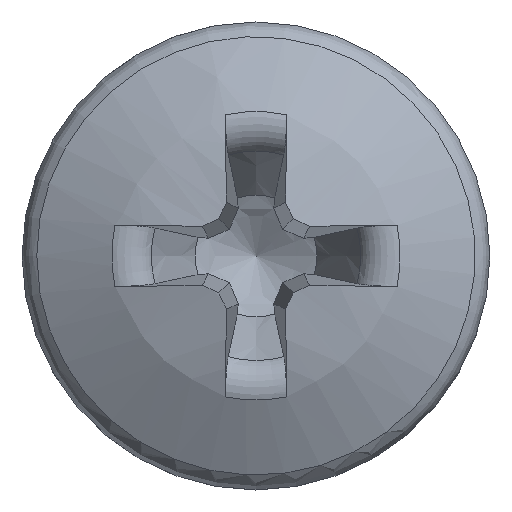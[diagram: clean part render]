
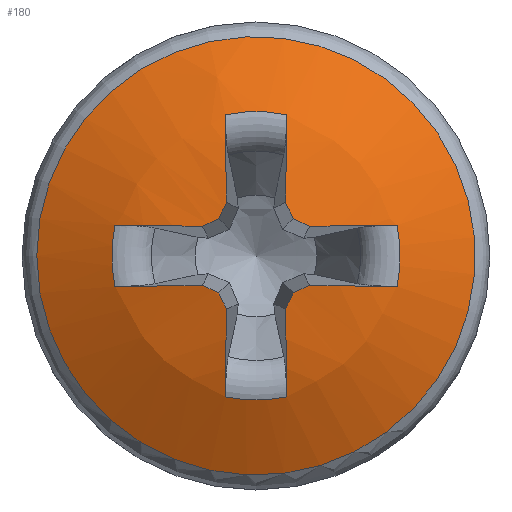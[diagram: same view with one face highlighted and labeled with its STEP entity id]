
A CAD part, top view. The second image highlights one B-rep face of the part: STEP entity #180.
In plain terms, the highlighted spherical face has radius 7.798 mm.
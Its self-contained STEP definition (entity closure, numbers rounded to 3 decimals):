
#143=SPHERICAL_SURFACE('',#1038,7.798);
#154=FACE_BOUND('',#297,.T.);
#155=FACE_BOUND('',#298,.T.);
#180=ADVANCED_FACE('',(#154,#155),#143,.T.);
#297=EDGE_LOOP('',(#427));
#298=EDGE_LOOP('',(#428,#429,#430,#431,#432,#433,#434,#435,#436,#437,#438,
#439,#440,#441,#442,#443,#444,#445,#446,#447));
#366=CIRCLE('',#1017,4.124);
#367=CIRCLE('',#1018,7.796);
#368=CIRCLE('',#1019,2.715);
#369=CIRCLE('',#1020,7.796);
#370=CIRCLE('',#1021,7.796);
#371=CIRCLE('',#1022,7.796);
#372=CIRCLE('',#1023,7.796);
#373=CIRCLE('',#1024,2.715);
#374=CIRCLE('',#1025,7.796);
#375=CIRCLE('',#1026,7.796);
#376=CIRCLE('',#1027,7.796);
#377=CIRCLE('',#1028,7.796);
#378=CIRCLE('',#1029,2.715);
#379=CIRCLE('',#1030,7.796);
#380=CIRCLE('',#1031,7.796);
#381=CIRCLE('',#1032,7.796);
#382=CIRCLE('',#1033,7.796);
#383=CIRCLE('',#1034,2.715);
#384=CIRCLE('',#1035,7.796);
#385=CIRCLE('',#1036,7.796);
#386=CIRCLE('',#1037,7.796);
#427=ORIENTED_EDGE('',*,*,#813,.T.);
#428=ORIENTED_EDGE('',*,*,#814,.F.);
#429=ORIENTED_EDGE('',*,*,#815,.T.);
#430=ORIENTED_EDGE('',*,*,#816,.F.);
#431=ORIENTED_EDGE('',*,*,#817,.F.);
#432=ORIENTED_EDGE('',*,*,#818,.F.);
#433=ORIENTED_EDGE('',*,*,#819,.F.);
#434=ORIENTED_EDGE('',*,*,#820,.T.);
#435=ORIENTED_EDGE('',*,*,#821,.F.);
#436=ORIENTED_EDGE('',*,*,#822,.F.);
#437=ORIENTED_EDGE('',*,*,#823,.F.);
#438=ORIENTED_EDGE('',*,*,#824,.F.);
#439=ORIENTED_EDGE('',*,*,#825,.T.);
#440=ORIENTED_EDGE('',*,*,#826,.F.);
#441=ORIENTED_EDGE('',*,*,#827,.F.);
#442=ORIENTED_EDGE('',*,*,#828,.F.);
#443=ORIENTED_EDGE('',*,*,#829,.F.);
#444=ORIENTED_EDGE('',*,*,#830,.T.);
#445=ORIENTED_EDGE('',*,*,#831,.F.);
#446=ORIENTED_EDGE('',*,*,#832,.F.);
#447=ORIENTED_EDGE('',*,*,#833,.F.);
#715=VERTEX_POINT('',#2089);
#716=VERTEX_POINT('',#2091);
#717=VERTEX_POINT('',#2092);
#718=VERTEX_POINT('',#2094);
#719=VERTEX_POINT('',#2096);
#720=VERTEX_POINT('',#2098);
#721=VERTEX_POINT('',#2100);
#722=VERTEX_POINT('',#2102);
#723=VERTEX_POINT('',#2104);
#724=VERTEX_POINT('',#2106);
#725=VERTEX_POINT('',#2108);
#726=VERTEX_POINT('',#2110);
#727=VERTEX_POINT('',#2112);
#728=VERTEX_POINT('',#2114);
#729=VERTEX_POINT('',#2116);
#730=VERTEX_POINT('',#2118);
#731=VERTEX_POINT('',#2120);
#732=VERTEX_POINT('',#2122);
#733=VERTEX_POINT('',#2124);
#734=VERTEX_POINT('',#2126);
#735=VERTEX_POINT('',#2128);
#813=EDGE_CURVE('',#715,#715,#366,.T.);
#814=EDGE_CURVE('',#716,#717,#367,.T.);
#815=EDGE_CURVE('',#716,#718,#368,.T.);
#816=EDGE_CURVE('',#719,#718,#369,.T.);
#817=EDGE_CURVE('',#720,#719,#370,.T.);
#818=EDGE_CURVE('',#721,#720,#371,.T.);
#819=EDGE_CURVE('',#722,#721,#372,.T.);
#820=EDGE_CURVE('',#722,#723,#373,.T.);
#821=EDGE_CURVE('',#724,#723,#374,.T.);
#822=EDGE_CURVE('',#725,#724,#375,.T.);
#823=EDGE_CURVE('',#726,#725,#376,.T.);
#824=EDGE_CURVE('',#727,#726,#377,.T.);
#825=EDGE_CURVE('',#727,#728,#378,.T.);
#826=EDGE_CURVE('',#729,#728,#379,.T.);
#827=EDGE_CURVE('',#730,#729,#380,.T.);
#828=EDGE_CURVE('',#731,#730,#381,.T.);
#829=EDGE_CURVE('',#732,#731,#382,.T.);
#830=EDGE_CURVE('',#732,#733,#383,.T.);
#831=EDGE_CURVE('',#734,#733,#384,.T.);
#832=EDGE_CURVE('',#735,#734,#385,.T.);
#833=EDGE_CURVE('',#717,#735,#386,.T.);
#1017=AXIS2_PLACEMENT_3D('',#2088,#1102,#1103);
#1018=AXIS2_PLACEMENT_3D('',#2090,#1104,#1105);
#1019=AXIS2_PLACEMENT_3D('',#2093,#1106,#1107);
#1020=AXIS2_PLACEMENT_3D('',#2095,#1108,#1109);
#1021=AXIS2_PLACEMENT_3D('',#2097,#1110,#1111);
#1022=AXIS2_PLACEMENT_3D('',#2099,#1112,#1113);
#1023=AXIS2_PLACEMENT_3D('',#2101,#1114,#1115);
#1024=AXIS2_PLACEMENT_3D('',#2103,#1116,#1117);
#1025=AXIS2_PLACEMENT_3D('',#2105,#1118,#1119);
#1026=AXIS2_PLACEMENT_3D('',#2107,#1120,#1121);
#1027=AXIS2_PLACEMENT_3D('',#2109,#1122,#1123);
#1028=AXIS2_PLACEMENT_3D('',#2111,#1124,#1125);
#1029=AXIS2_PLACEMENT_3D('',#2113,#1126,#1127);
#1030=AXIS2_PLACEMENT_3D('',#2115,#1128,#1129);
#1031=AXIS2_PLACEMENT_3D('',#2117,#1130,#1131);
#1032=AXIS2_PLACEMENT_3D('',#2119,#1132,#1133);
#1033=AXIS2_PLACEMENT_3D('',#2121,#1134,#1135);
#1034=AXIS2_PLACEMENT_3D('',#2123,#1136,#1137);
#1035=AXIS2_PLACEMENT_3D('',#2125,#1138,#1139);
#1036=AXIS2_PLACEMENT_3D('',#2127,#1140,#1141);
#1037=AXIS2_PLACEMENT_3D('',#2129,#1142,#1143);
#1038=AXIS2_PLACEMENT_3D('',#2130,#1144,#1145);
#1102=DIRECTION('',(0.,0.,1.));
#1103=DIRECTION('',(-1.,0.,0.));
#1104=DIRECTION('',(-0.035,0.996,0.087));
#1105=DIRECTION('',(0.,-0.087,0.996));
#1106=DIRECTION('',(0.,0.,-1.));
#1107=DIRECTION('',(-1.,0.,0.));
#1108=DIRECTION('',(-0.035,-0.996,0.087));
#1109=DIRECTION('',(0.,-0.087,-0.996));
#1110=DIRECTION('',(0.42,-0.902,0.1));
#1111=DIRECTION('',(0.906,0.423,0.));
#1112=DIRECTION('',(0.902,-0.42,0.1));
#1113=DIRECTION('',(0.423,0.906,0.));
#1114=DIRECTION('',(0.996,0.035,0.087));
#1115=DIRECTION('',(0.087,0.,-0.996));
#1116=DIRECTION('',(0.,0.,-1.));
#1117=DIRECTION('',(-1.,0.,0.));
#1118=DIRECTION('',(-0.996,0.035,0.087));
#1119=DIRECTION('',(0.087,0.,0.996));
#1120=DIRECTION('',(-0.902,-0.42,0.1));
#1121=DIRECTION('',(0.423,-0.906,0.));
#1122=DIRECTION('',(-0.42,-0.902,0.1));
#1123=DIRECTION('',(0.906,-0.423,0.));
#1124=DIRECTION('',(0.035,-0.996,0.087));
#1125=DIRECTION('',(0.,-0.087,-0.996));
#1126=DIRECTION('',(0.,0.,-1.));
#1127=DIRECTION('',(-1.,0.,0.));
#1128=DIRECTION('',(0.035,0.996,0.087));
#1129=DIRECTION('',(0.,-0.087,0.996));
#1130=DIRECTION('',(-0.42,0.902,0.1));
#1131=DIRECTION('',(-0.906,-0.423,0.));
#1132=DIRECTION('',(-0.902,0.42,0.1));
#1133=DIRECTION('',(-0.423,-0.906,0.));
#1134=DIRECTION('',(-0.996,-0.035,0.087));
#1135=DIRECTION('',(0.087,0.,0.996));
#1136=DIRECTION('',(0.,0.,-1.));
#1137=DIRECTION('',(-1.,0.,0.));
#1138=DIRECTION('',(0.996,-0.035,0.087));
#1139=DIRECTION('',(0.087,0.,-0.996));
#1140=DIRECTION('',(0.902,0.42,0.1));
#1141=DIRECTION('',(-0.423,0.906,0.));
#1142=DIRECTION('',(0.42,0.902,0.1));
#1143=DIRECTION('',(-0.906,0.423,0.));
#1144=DIRECTION('',(0.,0.,1.));
#1145=DIRECTION('',(0.,1.,0.));
#2088=CARTESIAN_POINT('',(0.,0.,2.22));
#2089=CARTESIAN_POINT('',(-4.124,0.,2.22));
#2090=CARTESIAN_POINT('',(-0.005,0.156,-4.384));
#2091=CARTESIAN_POINT('',(-2.653,-0.575,2.912));
#2092=CARTESIAN_POINT('',(-1.009,-0.553,3.315));
#2093=CARTESIAN_POINT('',(0.,0.,2.912));
#2094=CARTESIAN_POINT('',(-2.653,0.575,2.912));
#2095=CARTESIAN_POINT('',(-0.005,-0.156,-4.384));
#2096=CARTESIAN_POINT('',(-1.009,0.553,3.315));
#2097=CARTESIAN_POINT('',(-0.063,0.135,-4.413));
#2098=CARTESIAN_POINT('',(-0.699,0.699,3.337));
#2099=CARTESIAN_POINT('',(-0.135,0.063,-4.413));
#2100=CARTESIAN_POINT('',(-0.553,1.009,3.315));
#2101=CARTESIAN_POINT('',(0.156,0.005,-4.384));
#2102=CARTESIAN_POINT('',(-0.575,2.653,2.912));
#2103=CARTESIAN_POINT('',(0.,0.,2.912));
#2104=CARTESIAN_POINT('',(0.575,2.653,2.912));
#2105=CARTESIAN_POINT('',(-0.156,0.005,-4.384));
#2106=CARTESIAN_POINT('',(0.553,1.009,3.315));
#2107=CARTESIAN_POINT('',(0.135,0.063,-4.413));
#2108=CARTESIAN_POINT('',(0.699,0.699,3.337));
#2109=CARTESIAN_POINT('',(0.063,0.135,-4.413));
#2110=CARTESIAN_POINT('',(1.009,0.553,3.315));
#2111=CARTESIAN_POINT('',(0.005,-0.156,-4.384));
#2112=CARTESIAN_POINT('',(2.653,0.575,2.912));
#2113=CARTESIAN_POINT('',(0.,0.,2.912));
#2114=CARTESIAN_POINT('',(2.653,-0.575,2.912));
#2115=CARTESIAN_POINT('',(0.005,0.156,-4.384));
#2116=CARTESIAN_POINT('',(1.009,-0.553,3.315));
#2117=CARTESIAN_POINT('',(0.063,-0.135,-4.413));
#2118=CARTESIAN_POINT('',(0.699,-0.699,3.337));
#2119=CARTESIAN_POINT('',(0.135,-0.063,-4.413));
#2120=CARTESIAN_POINT('',(0.553,-1.009,3.315));
#2121=CARTESIAN_POINT('',(-0.156,-0.005,-4.384));
#2122=CARTESIAN_POINT('',(0.575,-2.653,2.912));
#2123=CARTESIAN_POINT('',(0.,0.,2.912));
#2124=CARTESIAN_POINT('',(-0.575,-2.653,2.912));
#2125=CARTESIAN_POINT('',(0.156,-0.005,-4.384));
#2126=CARTESIAN_POINT('',(-0.553,-1.009,3.315));
#2127=CARTESIAN_POINT('',(-0.135,-0.063,-4.413));
#2128=CARTESIAN_POINT('',(-0.699,-0.699,3.337));
#2129=CARTESIAN_POINT('',(-0.063,-0.135,-4.413));
#2130=CARTESIAN_POINT('',(0.,0.,-4.398));
